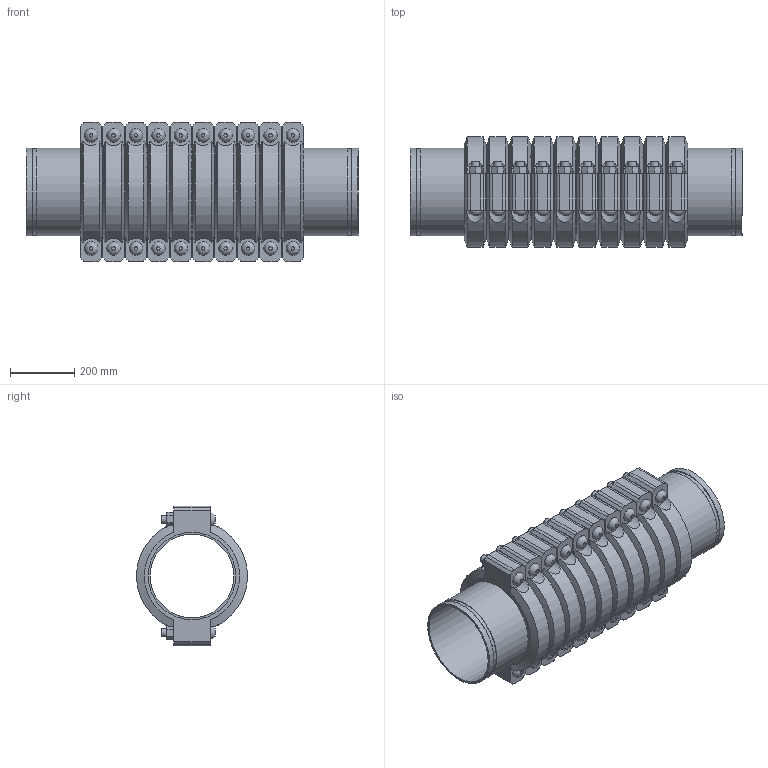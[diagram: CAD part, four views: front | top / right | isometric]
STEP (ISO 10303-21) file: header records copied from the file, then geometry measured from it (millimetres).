
FILE_DESCRIPTION(/* description */ ('VIC SS EXPANSION JOINT 10 COUPLINGS COMPRESSED STYLE 155P (OGS) (POTABLE WATER) ','CAx-IF Rec.Pracs.---Representation and Presentation of Product Manufacturing Information (PMI)---4.0---2014-10-13'),/* implementation_level */ '2;1');
FILE_NAME(/* name */ 'C:\Users\kkamble\AppData\Roaming\Autodesk\ApplicationPlugins\Victaulic.Temp\A563\Victaulic_SS_Expansion Joint_Compressed_10 Couplings_Style 155P (OGS)-Potable Water_10 Coup_Comp_10 (250).stp',/* time_stamp */ '2021-07-16T17:05:48+06:00',/* author */ ('kkamble'),/* organization */ ('Victaulic'),/* preprocessor_version */ 'ST-DEVELOPER v17.2',/* originating_system */ 'Autodesk Inventor 2019',/* authorisation */ '');
FILE_SCHEMA (('AP242_MANAGED_MODEL_BASED_3D_ENGINEERING_MIM_LF { 1 0 10303 442 1 1 4 }'));
Length unit declared in the file: inch
Products named in the file (4): 155P-10.0; Nipple-10.0; Nipple-10.0_1; 077-10.0
Assembly tree (21 placements, depth 2):
  155P-10.0
    Nipple-10.0  x2
    Nipple-10.0_1  x9
    077-10.0  x10
Bounding box: 1035.05 x 344.9 x 435.1 mm (x, y, z)
Volume: 34158013.8 mm3; surface area: 4664596.5 mm2
Topology: 21 solids, 41 shells, 702 faces, 1720 edges, 1204 vertices
Faces by surface type: plane 406, cylinder 236, cone 40, bspline 20
Full cylindrical faces by diameter (mm): 25.4 x40, 27.432 x20, 260.35 x11, 268.275 x22, 273.05 x43
Entity records: 3041 total; most frequent: CARTESIAN_POINT 671, DIRECTION 479, ORIENTED_EDGE 398, EDGE_CURVE 199, AXIS2_PLACEMENT_3D 196, VERTEX_POINT 142, EDGE_LOOP 105, CIRCLE 92
